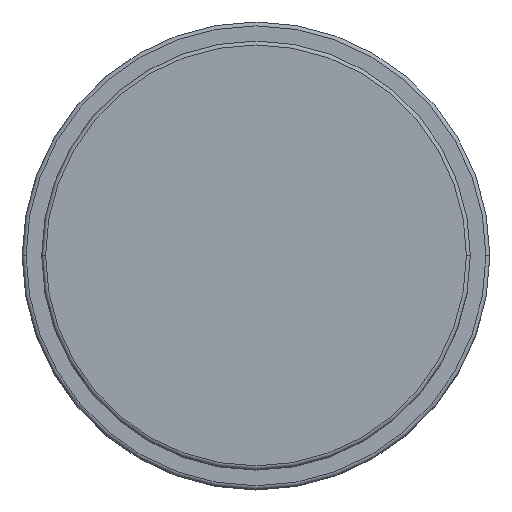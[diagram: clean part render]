
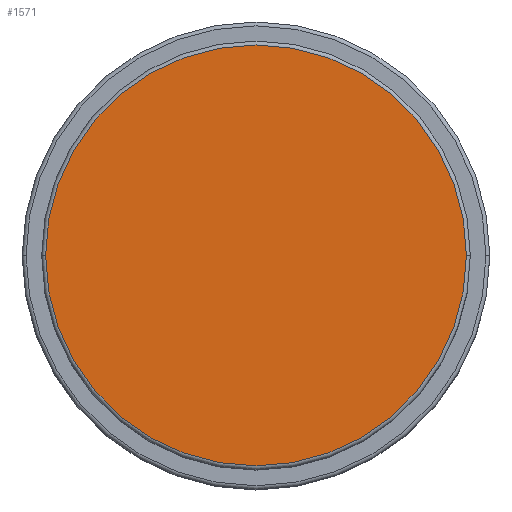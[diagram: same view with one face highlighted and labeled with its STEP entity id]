
A CAD part, top view. The second image highlights one B-rep face of the part: STEP entity #1571.
In plain terms, the highlighted planar face has unit normal (0, 0, 1).
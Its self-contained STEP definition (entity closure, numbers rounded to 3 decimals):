
#45 = ORIENTED_EDGE ( 'NONE', *, *, #524, .T. ) ;
#62 = ORIENTED_EDGE ( 'NONE', *, *, #758, .T. ) ;
#131 = DIRECTION ( 'NONE',  ( 1., 0., 0. ) ) ;
#424 = VERTEX_POINT ( 'NONE', #1164 ) ;
#446 = DIRECTION ( 'NONE',  ( 0., 0., 1. ) ) ;
#524 = EDGE_CURVE ( 'NONE', #677, #424, #1280, .T. ) ;
#552 = CARTESIAN_POINT ( 'NONE',  ( 0., 0., 56. ) ) ;
#554 = CIRCLE ( 'NONE', #820, 27. ) ;
#677 = VERTEX_POINT ( 'NONE', #1120 ) ;
#756 = DIRECTION ( 'NONE',  ( 1., 0., 0. ) ) ;
#758 = EDGE_CURVE ( 'NONE', #424, #677, #554, .T. ) ;
#762 = CARTESIAN_POINT ( 'NONE',  ( 0., 0., 56. ) ) ;
#765 = EDGE_LOOP ( 'NONE', ( #45, #62 ) ) ;
#820 = AXIS2_PLACEMENT_3D ( 'NONE', #552, #892, #131 ) ;
#892 = DIRECTION ( 'NONE',  ( 0., 0., 1. ) ) ;
#896 = PLANE ( 'NONE',  #1369 ) ;
#905 = DIRECTION ( 'NONE',  ( 1., 0., 0. ) ) ;
#1058 = DIRECTION ( 'NONE',  ( 0., 0., 1. ) ) ;
#1120 = CARTESIAN_POINT ( 'NONE',  ( 27., 0., 56. ) ) ;
#1164 = CARTESIAN_POINT ( 'NONE',  ( -27., 0., 56. ) ) ;
#1191 = CARTESIAN_POINT ( 'NONE',  ( 0., 0., 56. ) ) ;
#1204 = AXIS2_PLACEMENT_3D ( 'NONE', #762, #446, #905 ) ;
#1280 = CIRCLE ( 'NONE', #1204, 27. ) ;
#1369 = AXIS2_PLACEMENT_3D ( 'NONE', #1191, #1058, #756 ) ;
#1571 = ADVANCED_FACE ( 'NONE', ( #1725 ), #896, .T. ) ;
#1725 = FACE_OUTER_BOUND ( 'NONE', #765, .T. ) ;
